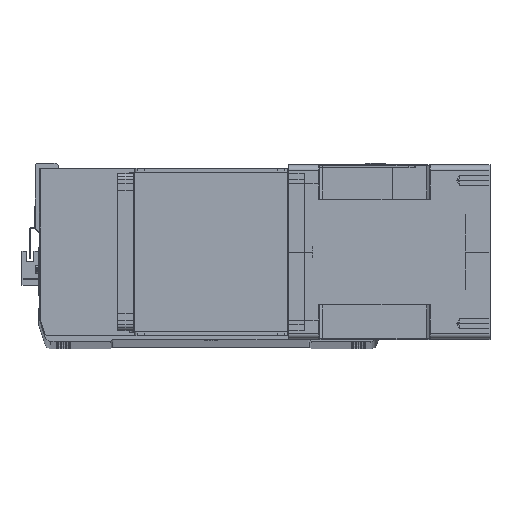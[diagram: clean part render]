
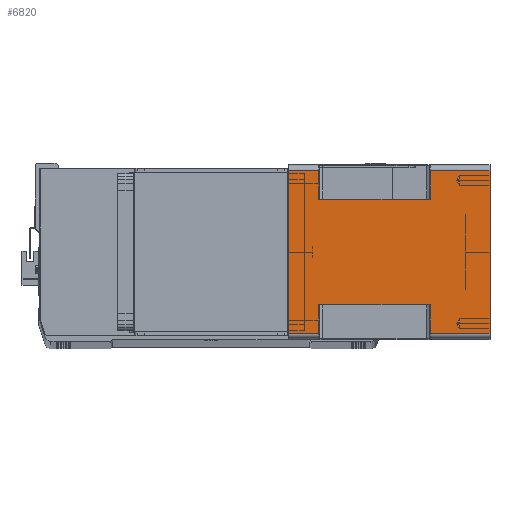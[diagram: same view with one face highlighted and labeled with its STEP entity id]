
A CAD part, top view. The second image highlights one B-rep face of the part: STEP entity #6820.
In plain terms, the highlighted planar face has unit normal (0, 0, 1) as drawn and (1, 0, 0) by its records, which use the part's own axes.
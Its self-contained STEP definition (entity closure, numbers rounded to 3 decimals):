
#406 = ORIENTED_EDGE ( 'NONE', *, *, #33261, .T. ) ;
#407 = EDGE_CURVE ( 'NONE', #9723, #24568, #19108, .T. ) ;
#595 = PLANE ( 'NONE',  #30550 ) ;
#1433 = CARTESIAN_POINT ( 'NONE',  ( 71., -66., -164. ) ) ;
#2069 = ORIENTED_EDGE ( 'NONE', *, *, #18633, .F. ) ;
#2104 = ORIENTED_EDGE ( 'NONE', *, *, #7965, .T. ) ;
#2436 = CARTESIAN_POINT ( 'NONE',  ( 71., 66., 0. ) ) ;
#2668 = CARTESIAN_POINT ( 'NONE',  ( 71., -43., -164. ) ) ;
#2703 = ORIENTED_EDGE ( 'NONE', *, *, #5182, .F. ) ;
#2862 = VERTEX_POINT ( 'NONE', #22505 ) ;
#2893 = CARTESIAN_POINT ( 'NONE',  ( 71., -66., -115.5 ) ) ;
#3058 = VERTEX_POINT ( 'NONE', #26410 ) ;
#3379 = DIRECTION ( 'NONE',  ( 0., 1., 0. ) ) ;
#3416 = VECTOR ( 'NONE', #4623, 1000. ) ;
#3495 = LINE ( 'NONE', #27052, #29188 ) ;
#4061 = CARTESIAN_POINT ( 'NONE',  ( 71., 66., -115.5 ) ) ;
#4623 = DIRECTION ( 'NONE',  ( 0., 0., 1. ) ) ;
#4638 = DIRECTION ( 'NONE',  ( 0., 0., -1. ) ) ;
#5182 = EDGE_CURVE ( 'NONE', #14523, #3058, #20796, .T. ) ;
#5448 = DIRECTION ( 'NONE',  ( 0., 0., 1. ) ) ;
#5671 = LINE ( 'NONE', #2893, #33972 ) ;
#6072 = ORIENTED_EDGE ( 'NONE', *, *, #29701, .T. ) ;
#6595 = VERTEX_POINT ( 'NONE', #2436 ) ;
#6815 = VECTOR ( 'NONE', #30567, 1000. ) ;
#6817 = VECTOR ( 'NONE', #9020, 1000. ) ;
#6820 = ADVANCED_FACE ( 'NONE', ( #28970 ), #595, .T. ) ;
#7270 = LINE ( 'NONE', #25171, #6815 ) ;
#7903 = EDGE_CURVE ( 'NONE', #35132, #6595, #15668, .T. ) ;
#7965 = EDGE_CURVE ( 'NONE', #2862, #14925, #5671, .T. ) ;
#8180 = LINE ( 'NONE', #18578, #3416 ) ;
#9020 = DIRECTION ( 'NONE',  ( 0., -1., 0. ) ) ;
#9364 = CARTESIAN_POINT ( 'NONE',  ( 71., -43., -24.5 ) ) ;
#9723 = VERTEX_POINT ( 'NONE', #26655 ) ;
#9877 = CARTESIAN_POINT ( 'NONE',  ( 71., 43., -164. ) ) ;
#10376 = ORIENTED_EDGE ( 'NONE', *, *, #7903, .F. ) ;
#11557 = LINE ( 'NONE', #2668, #33295 ) ;
#12137 = ORIENTED_EDGE ( 'NONE', *, *, #13918, .T. ) ;
#13275 = EDGE_CURVE ( 'NONE', #29957, #34929, #22415, .T. ) ;
#13605 = DIRECTION ( 'NONE',  ( 0., 0., 1. ) ) ;
#13726 = CARTESIAN_POINT ( 'NONE',  ( 71., 66., -164. ) ) ;
#13918 = EDGE_CURVE ( 'NONE', #14523, #26580, #3495, .T. ) ;
#14523 = VERTEX_POINT ( 'NONE', #30784 ) ;
#14599 = LINE ( 'NONE', #29857, #35964 ) ;
#14804 = CARTESIAN_POINT ( 'NONE',  ( 71., 43., -115.5 ) ) ;
#14925 = VERTEX_POINT ( 'NONE', #31555 ) ;
#15566 = ORIENTED_EDGE ( 'NONE', *, *, #33122, .F. ) ;
#15668 = LINE ( 'NONE', #18653, #19147 ) ;
#16474 = DIRECTION ( 'NONE',  ( 0., -1., 0. ) ) ;
#17025 = VERTEX_POINT ( 'NONE', #1433 ) ;
#17210 = DIRECTION ( 'NONE',  ( 1., 0., 0. ) ) ;
#17366 = ORIENTED_EDGE ( 'NONE', *, *, #22779, .T. ) ;
#17746 = CARTESIAN_POINT ( 'NONE',  ( 71., -66., -24.5 ) ) ;
#18202 = CARTESIAN_POINT ( 'NONE',  ( 71., -43., -24.5 ) ) ;
#18578 = CARTESIAN_POINT ( 'NONE',  ( 71., -66., -164. ) ) ;
#18633 = EDGE_CURVE ( 'NONE', #2862, #34929, #11557, .T. ) ;
#18653 = CARTESIAN_POINT ( 'NONE',  ( 71., -66., 0. ) ) ;
#18788 = ORIENTED_EDGE ( 'NONE', *, *, #407, .T. ) ;
#19108 = LINE ( 'NONE', #13726, #31359 ) ;
#19147 = VECTOR ( 'NONE', #32545, 1000. ) ;
#20748 = LINE ( 'NONE', #22213, #28240 ) ;
#20796 = LINE ( 'NONE', #9877, #33480 ) ;
#21620 = DIRECTION ( 'NONE',  ( 0., 0., 1. ) ) ;
#21862 = ORIENTED_EDGE ( 'NONE', *, *, #13275, .T. ) ;
#22058 = CARTESIAN_POINT ( 'NONE',  ( 71., 66., -24.5 ) ) ;
#22213 = CARTESIAN_POINT ( 'NONE',  ( 71., 66., -164. ) ) ;
#22415 = LINE ( 'NONE', #9364, #26343 ) ;
#22505 = CARTESIAN_POINT ( 'NONE',  ( 71., -43., -115.5 ) ) ;
#22779 = EDGE_CURVE ( 'NONE', #24568, #3058, #30353, .T. ) ;
#23079 = DIRECTION ( 'NONE',  ( 0., 1., 0. ) ) ;
#24568 = VERTEX_POINT ( 'NONE', #4061 ) ;
#24947 = EDGE_LOOP ( 'NONE', ( #2069, #2104, #15566, #6072, #18788, #17366, #2703, #12137, #406, #10376, #32907, #21862 ) ) ;
#25171 = CARTESIAN_POINT ( 'NONE',  ( 71., -66., -164. ) ) ;
#26343 = VECTOR ( 'NONE', #23079, 1000. ) ;
#26410 = CARTESIAN_POINT ( 'NONE',  ( 71., 43., -115.5 ) ) ;
#26580 = VERTEX_POINT ( 'NONE', #22058 ) ;
#26655 = CARTESIAN_POINT ( 'NONE',  ( 71., 66., -164. ) ) ;
#26835 = DIRECTION ( 'NONE',  ( 0., 1., 0. ) ) ;
#27052 = CARTESIAN_POINT ( 'NONE',  ( 71., -66., -24.5 ) ) ;
#27501 = CARTESIAN_POINT ( 'NONE',  ( 71., -66., 0. ) ) ;
#27780 = EDGE_CURVE ( 'NONE', #29957, #35132, #7270, .T. ) ;
#28240 = VECTOR ( 'NONE', #13605, 1000. ) ;
#28970 = FACE_OUTER_BOUND ( 'NONE', #24947, .T. ) ;
#29188 = VECTOR ( 'NONE', #29717, 1000. ) ;
#29701 = EDGE_CURVE ( 'NONE', #17025, #9723, #14599, .T. ) ;
#29717 = DIRECTION ( 'NONE',  ( 0., 1., 0. ) ) ;
#29857 = CARTESIAN_POINT ( 'NONE',  ( 71., -66., -164. ) ) ;
#29957 = VERTEX_POINT ( 'NONE', #17746 ) ;
#30353 = LINE ( 'NONE', #14804, #6817 ) ;
#30550 = AXIS2_PLACEMENT_3D ( 'NONE', #33665, #17210, #3379 ) ;
#30567 = DIRECTION ( 'NONE',  ( 0., 0., 1. ) ) ;
#30784 = CARTESIAN_POINT ( 'NONE',  ( 71., 43., -24.5 ) ) ;
#31359 = VECTOR ( 'NONE', #21620, 1000. ) ;
#31555 = CARTESIAN_POINT ( 'NONE',  ( 71., -66., -115.5 ) ) ;
#32545 = DIRECTION ( 'NONE',  ( 0., 1., 0. ) ) ;
#32907 = ORIENTED_EDGE ( 'NONE', *, *, #27780, .F. ) ;
#33122 = EDGE_CURVE ( 'NONE', #17025, #14925, #8180, .T. ) ;
#33261 = EDGE_CURVE ( 'NONE', #26580, #6595, #20748, .T. ) ;
#33295 = VECTOR ( 'NONE', #5448, 1000. ) ;
#33480 = VECTOR ( 'NONE', #4638, 1000. ) ;
#33665 = CARTESIAN_POINT ( 'NONE',  ( 71., -66., -164. ) ) ;
#33972 = VECTOR ( 'NONE', #16474, 1000. ) ;
#34929 = VERTEX_POINT ( 'NONE', #18202 ) ;
#35132 = VERTEX_POINT ( 'NONE', #27501 ) ;
#35964 = VECTOR ( 'NONE', #26835, 1000. ) ;
